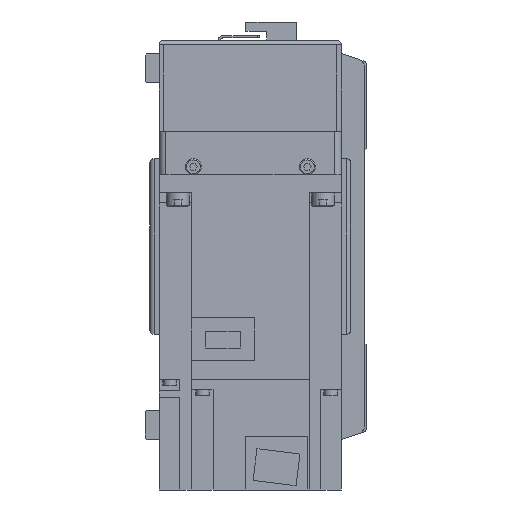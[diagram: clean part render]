
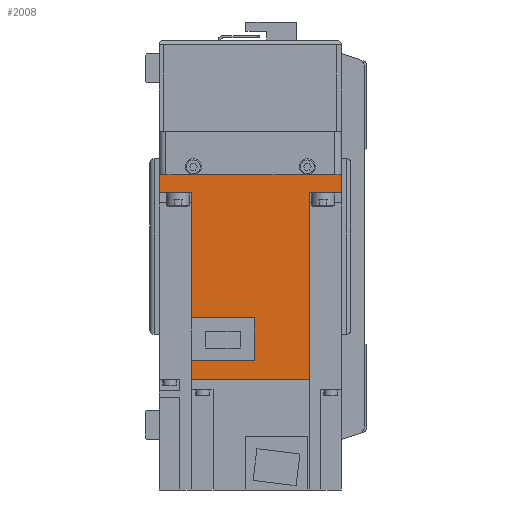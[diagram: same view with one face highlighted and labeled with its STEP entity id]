
A CAD part, left-side view. The second image highlights one B-rep face of the part: STEP entity #2008.
In plain terms, the highlighted planar face has unit normal (-1, 0, 0) as drawn and (1, 0, 0) by its records, which use the part's own axes.
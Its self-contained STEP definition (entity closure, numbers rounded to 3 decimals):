
#2008 = ADVANCED_FACE( '', ( #4527 ), #4528, .F. );
#4527 = FACE_OUTER_BOUND( '', #7649, .T. );
#4528 = PLANE( '', #7650 );
#7649 = EDGE_LOOP( '', ( #13296, #13297, #13298, #13299, #13300, #13301, #13302, #13303, #13304, #13305, #13306, #13307 ) );
#7650 = AXIS2_PLACEMENT_3D( '', #13308, #13309, #13310 );
#13296 = ORIENTED_EDGE( '', *, *, #19323, .F. );
#13297 = ORIENTED_EDGE( '', *, *, #19721, .F. );
#13298 = ORIENTED_EDGE( '', *, *, #19713, .F. );
#13299 = ORIENTED_EDGE( '', *, *, #20085, .T. );
#13300 = ORIENTED_EDGE( '', *, *, #20086, .F. );
#13301 = ORIENTED_EDGE( '', *, *, #20087, .T. );
#13302 = ORIENTED_EDGE( '', *, *, #20088, .T. );
#13303 = ORIENTED_EDGE( '', *, *, #20089, .F. );
#13304 = ORIENTED_EDGE( '', *, *, #20090, .F. );
#13305 = ORIENTED_EDGE( '', *, *, #19723, .F. );
#13306 = ORIENTED_EDGE( '', *, *, #20091, .F. );
#13307 = ORIENTED_EDGE( '', *, *, #19406, .F. );
#13308 = CARTESIAN_POINT( '', ( 40., 89.8, 40. ) );
#13309 = DIRECTION( '', ( -1., 0., 0. ) );
#13310 = DIRECTION( '', ( 0., 0., 1. ) );
#19323 = EDGE_CURVE( '', #23666, #23668, #23669, .T. );
#19406 = EDGE_CURVE( '', #23668, #23795, #23796, .T. );
#19713 = EDGE_CURVE( '', #24253, #24251, #24255, .T. );
#19721 = EDGE_CURVE( '', #24251, #23666, #24265, .T. );
#19723 = EDGE_CURVE( '', #24266, #24268, #24269, .T. );
#20085 = EDGE_CURVE( '', #24253, #24782, #24783, .T. );
#20086 = EDGE_CURVE( '', #24784, #24782, #24785, .T. );
#20087 = EDGE_CURVE( '', #24784, #24786, #24787, .T. );
#20088 = EDGE_CURVE( '', #24786, #24788, #24789, .T. );
#20089 = EDGE_CURVE( '', #24790, #24788, #24791, .T. );
#20090 = EDGE_CURVE( '', #24268, #24790, #24792, .T. );
#20091 = EDGE_CURVE( '', #23795, #24266, #24793, .T. );
#23666 = VERTEX_POINT( '', #29709 );
#23668 = VERTEX_POINT( '', #29712 );
#23669 = LINE( '', #29713, #29714 );
#23795 = VERTEX_POINT( '', #29881 );
#23796 = LINE( '', #29882, #29883 );
#24251 = VERTEX_POINT( '', #30522 );
#24253 = VERTEX_POINT( '', #30525 );
#24255 = LINE( '', #30528, #30529 );
#24265 = LINE( '', #30544, #30545 );
#24266 = VERTEX_POINT( '', #30546 );
#24268 = VERTEX_POINT( '', #30549 );
#24269 = LINE( '', #30550, #30551 );
#24782 = VERTEX_POINT( '', #31312 );
#24783 = LINE( '', #31313, #31314 );
#24784 = VERTEX_POINT( '', #31315 );
#24785 = LINE( '', #31316, #31317 );
#24786 = VERTEX_POINT( '', #31318 );
#24787 = LINE( '', #31319, #31320 );
#24788 = VERTEX_POINT( '', #31321 );
#24789 = LINE( '', #31322, #31323 );
#24790 = VERTEX_POINT( '', #31324 );
#24791 = LINE( '', #31325, #31326 );
#24792 = LINE( '', #31327, #31328 );
#24793 = LINE( '', #31329, #31330 );
#29709 = CARTESIAN_POINT( '', ( 40., 81.4, -25.95 ) );
#29712 = CARTESIAN_POINT( '', ( 40., 81.4, 1.8 ) );
#29713 = CARTESIAN_POINT( '', ( 40., 81.4, -26. ) );
#29714 = VECTOR( '', #35167, 1000. );
#29881 = CARTESIAN_POINT( '', ( 40., 62.8, 1.8 ) );
#29882 = CARTESIAN_POINT( '', ( 40., 81.4, 1.8 ) );
#29883 = VECTOR( '', #35285, 1000. );
#30522 = CARTESIAN_POINT( '', ( 40., 89.8, -25.95 ) );
#30525 = CARTESIAN_POINT( '', ( 40., 89.8, 25.95 ) );
#30528 = CARTESIAN_POINT( '', ( 40., 89.8, 40. ) );
#30529 = VECTOR( '', #35665, 1000. );
#30544 = CARTESIAN_POINT( '', ( 40., 158., -25.95 ) );
#30545 = VECTOR( '', #35671, 1000. );
#30546 = CARTESIAN_POINT( '', ( 40., 62.8, -25.95 ) );
#30549 = CARTESIAN_POINT( '', ( 40., 8., -25.95 ) );
#30550 = CARTESIAN_POINT( '', ( 40., 158., -25.95 ) );
#30551 = VECTOR( '', #35673, 1000. );
#31312 = CARTESIAN_POINT( '', ( 40., 8., 25.95 ) );
#31313 = CARTESIAN_POINT( '', ( 40., 158., 25.95 ) );
#31314 = VECTOR( '', #36098, 1000. );
#31315 = CARTESIAN_POINT( '', ( 40., 8., 40. ) );
#31316 = CARTESIAN_POINT( '', ( 40., 8., 40. ) );
#31317 = VECTOR( '', #36099, 1000. );
#31318 = CARTESIAN_POINT( '', ( 40., 0., 40. ) );
#31319 = CARTESIAN_POINT( '', ( 40., 89.8, 40. ) );
#31320 = VECTOR( '', #36100, 1000. );
#31321 = CARTESIAN_POINT( '', ( 40., 0., -40. ) );
#31322 = CARTESIAN_POINT( '', ( 40., 0., 40. ) );
#31323 = VECTOR( '', #36101, 1000. );
#31324 = CARTESIAN_POINT( '', ( 40., 8., -40. ) );
#31325 = CARTESIAN_POINT( '', ( 40., 89.8, -40. ) );
#31326 = VECTOR( '', #36102, 1000. );
#31327 = CARTESIAN_POINT( '', ( 40., 8., 40. ) );
#31328 = VECTOR( '', #36103, 1000. );
#31329 = CARTESIAN_POINT( '', ( 40., 62.8, 1.8 ) );
#31330 = VECTOR( '', #36104, 1000. );
#35167 = DIRECTION( '', ( 0., 0., 1. ) );
#35285 = DIRECTION( '', ( 0., -1., 0. ) );
#35665 = DIRECTION( '', ( 0., 0., -1. ) );
#35671 = DIRECTION( '', ( 0., -1., 0. ) );
#35673 = DIRECTION( '', ( 0., -1., 0. ) );
#36098 = DIRECTION( '', ( 0., -1., 0. ) );
#36099 = DIRECTION( '', ( 0., 0., -1. ) );
#36100 = DIRECTION( '', ( 0., -1., 0. ) );
#36101 = DIRECTION( '', ( 0., 0., -1. ) );
#36102 = DIRECTION( '', ( 0., -1., 0. ) );
#36103 = DIRECTION( '', ( 0., 0., -1. ) );
#36104 = DIRECTION( '', ( 0., 0., -1. ) );
